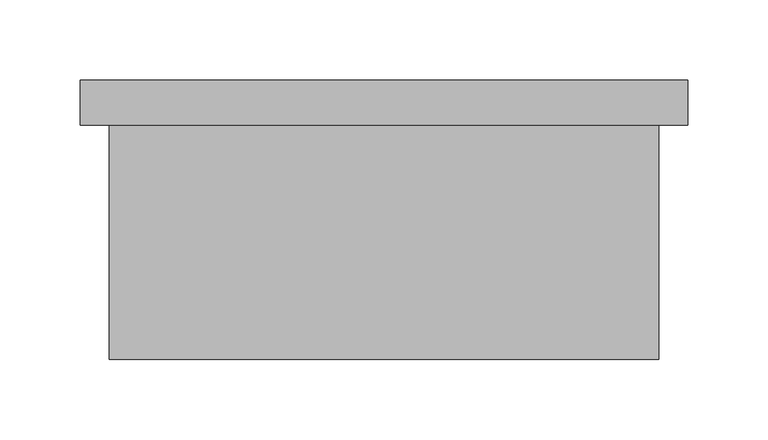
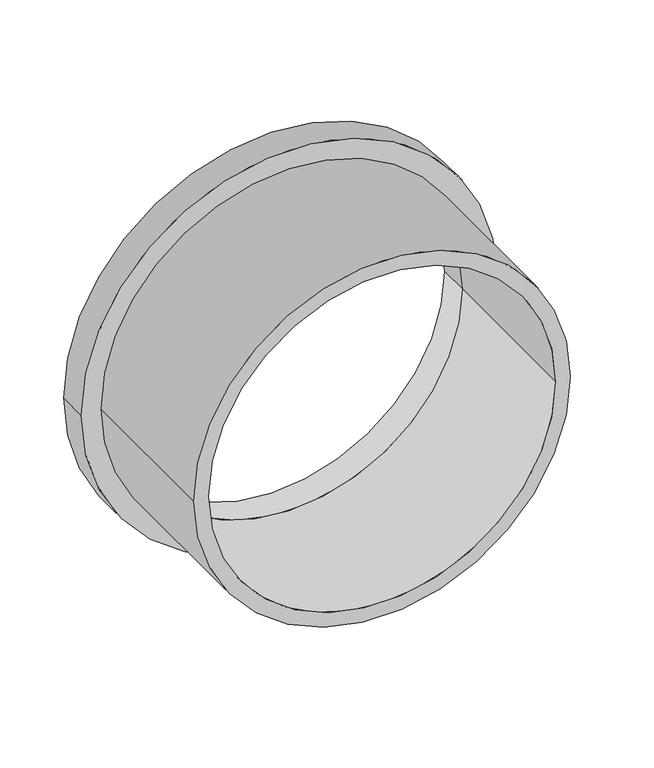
"""IFC4 building model written with IfcOpenShell, lengths in millimetres: pipe fitting geometry, 01051020 : Manguitos porta brida."""

from ifc_helpers import new_model, si_unit, point, frame, origin, origin_2d, place, context, project, spatial, circle_curve, trimmed, segment, composite_curve, outline, extrude, source, transform, mapped, element, save


def pipe_fitting_1aabd8eb(model_context):
    return source(origin(), model_context, "Body", "SweptSolid", [
        extrude(outline(composite_curve([segment(trimmed(circle_curve(origin_2d(), 171.0), [point((0.0, -171.0))], [point((0.0, 171.0))], False, "CARTESIAN"), True, "CONTINUOUS"), segment(trimmed(circle_curve(origin_2d(), 171.0), [point((0.0, 171.0))], [point((0.0, -171.0))], False, "CARTESIAN"), True, "CONTINUOUS")], self_intersect=False), holes=[composite_curve([segment(trimmed(circle_curve(origin_2d(), 157.5), [point((0.0, -157.5))], [point((0.0, 157.5))], True, "CARTESIAN"), True, "CONTINUOUS"), segment(trimmed(circle_curve(origin_2d(), 157.5), [point((0.0, 157.5))], [point((0.0, -157.5))], True, "CARTESIAN"), True, "CONTINUOUS")], self_intersect=False)]), frame((0.0, -146.0, 0.0), z_axis=(0.0, 1.0, 0.0), x_axis=(0.0, 0.0, 1.0)), (0.0, 0.0, 1.0), 146.0),
        extrude(outline(composite_curve([segment(trimmed(circle_curve(origin_2d(), 189.0), [point((0.0, -189.0))], [point((0.0, 189.0))], False, "CARTESIAN"), True, "CONTINUOUS"), segment(trimmed(circle_curve(origin_2d(), 189.0), [point((0.0, 189.0))], [point((0.0, -189.0))], False, "CARTESIAN"), True, "CONTINUOUS")], self_intersect=False), holes=[composite_curve([segment(trimmed(circle_curve(origin_2d(), 157.5), [point((0.0, -157.5))], [point((0.0, 157.5))], True, "CARTESIAN"), True, "CONTINUOUS"), segment(trimmed(circle_curve(origin_2d(), 157.5), [point((0.0, 157.5))], [point((0.0, -157.5))], True, "CARTESIAN"), True, "CONTINUOUS")], self_intersect=False)]), frame((0.0, 0.0, 0.0), z_axis=(0.0, 1.0, 0.0), x_axis=(0.0, 0.0, 1.0)), (0.0, 0.0, 1.0), 28.0),
    ])


if __name__ == "__main__":
    model = new_model("IFC4")
    model_context = context("Model", 3, world=origin())
    ifc_project = project(units=[si_unit("LENGTHUNIT", "METRE", prefix="MILLI")], contexts=[model_context])
    site = spatial("IfcSite", under=ifc_project)
    building = spatial("IfcBuilding", under=site)
    placement = place(None, origin())
    pipe_fitting_shape = pipe_fitting_1aabd8eb(model_context)
    element("IfcPipeFitting", 1, ObjectType="01051020 : Manguitos porta brida", at=placement, inside=building, context=model_context, shape_type="MappedRepresentation", body=[
        mapped(pipe_fitting_shape, transform((0.0, 0.0, 0.0), x_axis=(1.0, 0.0, 0.0), y_axis=(0.0, 1.0, 0.0), z_axis=(0.0, 0.0, 1.0))),
    ])
    save(model, "model.ifc")
